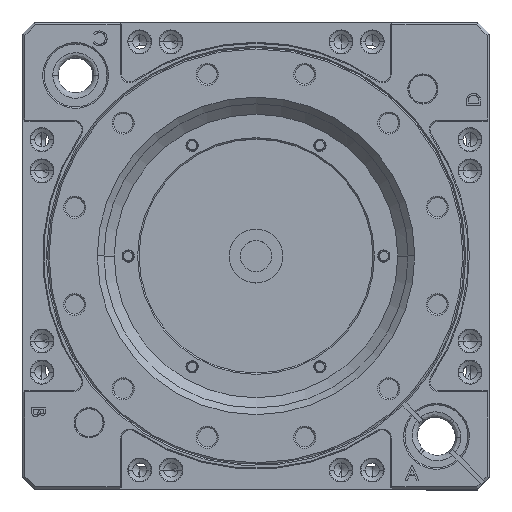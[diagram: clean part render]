
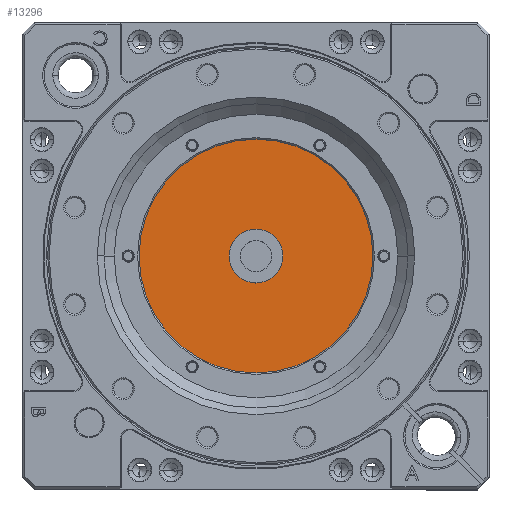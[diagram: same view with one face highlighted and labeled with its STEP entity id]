
A CAD part, top view. The second image highlights one B-rep face of the part: STEP entity #13296.
In plain terms, the highlighted planar face has unit normal (0, 0, 1).
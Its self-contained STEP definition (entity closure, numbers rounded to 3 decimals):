
#871 = VERTEX_POINT ( 'NONE', #23990 ) ;
#2426 = CARTESIAN_POINT ( 'NONE',  ( 0., 41.75, -37.3 ) ) ;
#4045 = VERTEX_POINT ( 'NONE', #2426 ) ;
#5681 = AXIS2_PLACEMENT_3D ( 'NONE', #14415, #41217, #18477 ) ;
#9129 = CARTESIAN_POINT ( 'NONE',  ( 0., 0., -37.3 ) ) ;
#9150 = CIRCLE ( 'NONE', #17980, 9.5 ) ;
#10873 = DIRECTION ( 'NONE',  ( 0., 0., 1. ) ) ;
#12152 = CARTESIAN_POINT ( 'NONE',  ( 0., 0., -37.3 ) ) ;
#12175 = FACE_BOUND ( 'NONE', #47241, .T. ) ;
#12694 = CIRCLE ( 'NONE', #42269, 9.5 ) ;
#12988 = VERTEX_POINT ( 'NONE', #31208 ) ;
#13030 = DIRECTION ( 'NONE',  ( 0., 1., 0. ) ) ;
#13296 = ADVANCED_FACE ( 'NONE', ( #30189, #12175 ), #37417, .F. ) ;
#14074 = EDGE_LOOP ( 'NONE', ( #18666, #16291 ) ) ;
#14415 = CARTESIAN_POINT ( 'NONE',  ( 0., 0., -37.3 ) ) ;
#15526 = ORIENTED_EDGE ( 'NONE', *, *, #22786, .F. ) ;
#15630 = VERTEX_POINT ( 'NONE', #39252 ) ;
#16024 = DIRECTION ( 'NONE',  ( -1., 0., 0. ) ) ;
#16291 = ORIENTED_EDGE ( 'NONE', *, *, #24206, .T. ) ;
#17980 = AXIS2_PLACEMENT_3D ( 'NONE', #12152, #38809, #16024 ) ;
#18477 = DIRECTION ( 'NONE',  ( -1., 0., 0. ) ) ;
#18622 = CIRCLE ( 'NONE', #18812, 41.75 ) ;
#18666 = ORIENTED_EDGE ( 'NONE', *, *, #35425, .T. ) ;
#18812 = AXIS2_PLACEMENT_3D ( 'NONE', #43700, #21066, #47424 ) ;
#21066 = DIRECTION ( 'NONE',  ( 0., 0., 1. ) ) ;
#22335 = ORIENTED_EDGE ( 'NONE', *, *, #28619, .F. ) ;
#22786 = EDGE_CURVE ( 'NONE', #871, #12988, #12694, .T. ) ;
#23990 = CARTESIAN_POINT ( 'NONE',  ( 9.5, 0., -37.3 ) ) ;
#24206 = EDGE_CURVE ( 'NONE', #15630, #4045, #18622, .T. ) ;
#28619 = EDGE_CURVE ( 'NONE', #12988, #871, #9150, .T. ) ;
#30189 = FACE_OUTER_BOUND ( 'NONE', #14074, .T. ) ;
#31208 = CARTESIAN_POINT ( 'NONE',  ( -9.5, 0., -37.3 ) ) ;
#33822 = CARTESIAN_POINT ( 'NONE',  ( 0., 0., -37.3 ) ) ;
#35085 = AXIS2_PLACEMENT_3D ( 'NONE', #9129, #35929, #13030 ) ;
#35425 = EDGE_CURVE ( 'NONE', #4045, #15630, #40778, .T. ) ;
#35929 = DIRECTION ( 'NONE',  ( 0., 0., 1. ) ) ;
#37417 = PLANE ( 'NONE',  #5681 ) ;
#37574 = DIRECTION ( 'NONE',  ( -1., 0., 0. ) ) ;
#38809 = DIRECTION ( 'NONE',  ( 0., 0., 1. ) ) ;
#39252 = CARTESIAN_POINT ( 'NONE',  ( 0., -41.75, -37.3 ) ) ;
#40778 = CIRCLE ( 'NONE', #35085, 41.75 ) ;
#41217 = DIRECTION ( 'NONE',  ( 0., 0., -1. ) ) ;
#42269 = AXIS2_PLACEMENT_3D ( 'NONE', #33822, #10873, #37574 ) ;
#43700 = CARTESIAN_POINT ( 'NONE',  ( 0., 0., -37.3 ) ) ;
#47241 = EDGE_LOOP ( 'NONE', ( #22335, #15526 ) ) ;
#47424 = DIRECTION ( 'NONE',  ( 0., 1., 0. ) ) ;
